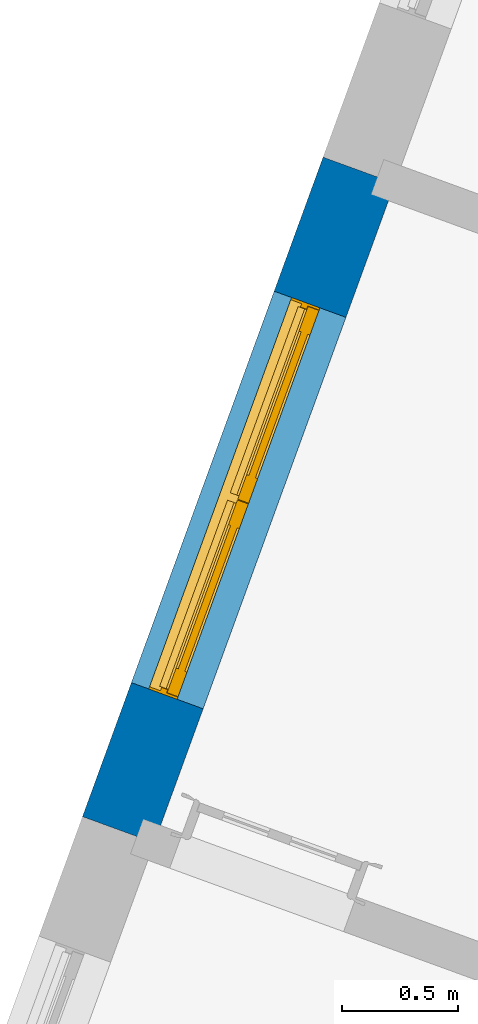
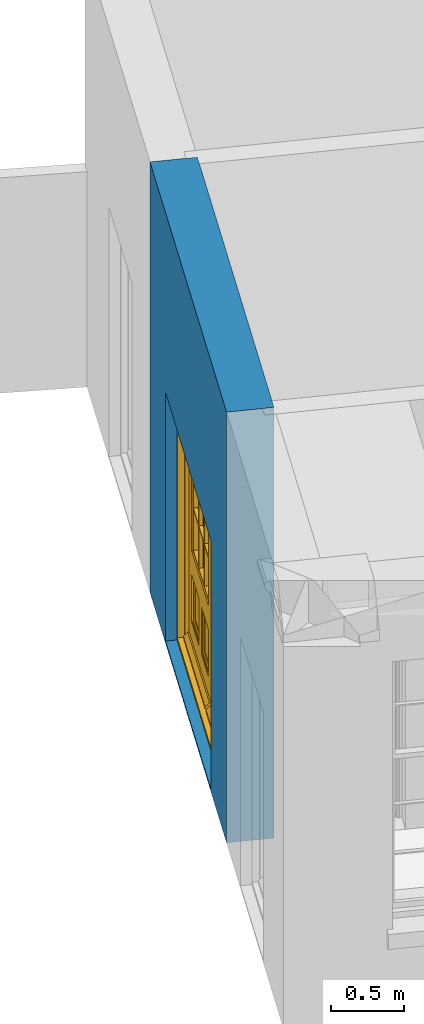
# One storey, part 3 of 6: 1 door, 1 wall, 1 opening.
"""IFC4 building model written with IfcOpenShell, lengths in metres."""

from ifc_helpers import new_model, si_unit, frame, origin, origin_with_axes, place, context, subcontext, project, spatial, polyline, outline, extrude, faceted_brep, source, transform, mapped, material, layer, layer_set, layer_usage, type_object, type_shapes, element, fill, save


model = new_model("IFC4")

# Units and contexts
model_context = context("Model", 3, world=origin_with_axes())
body_context = subcontext(model_context, "Body", "Model", "MODEL_VIEW")
ifc_project = project(units=[si_unit("PLANEANGLEUNIT", "RADIAN"), si_unit("MASSUNIT", "GRAM", prefix="KILO"), si_unit("FORCEUNIT", "NEWTON", prefix="KILO"), si_unit("LENGTHUNIT", "METRE"), si_unit("AREAUNIT", "SQUARE_METRE"), si_unit("VOLUMEUNIT", "CUBIC_METRE")], contexts=[model_context, model_context])

# Sites, building, storey
site_1_placement = place(None, origin_with_axes())
site_1 = spatial("IfcSite", under=ifc_project, at=site_1_placement, Name="Tamar")
site_2_placement = place(site_1_placement, origin_with_axes())
site_2 = spatial("IfcSite", under=site_1, at=site_2_placement, Name="Site plot-14", CompositionType="ELEMENT")
building_placement = place(None, origin_with_axes())
building = spatial("IfcBuilding", under=site_2, at=building_placement, Name="Building plot-14", CompositionType="ELEMENT")
storey_placement = place(None, frame((0.0, 0.0, 26.8), z_axis=(0.0, 0.0, 1.0), x_axis=(1.0, 0.0, 0.0)))
storey = spatial("IfcBuildingStorey", under=building, at=storey_placement, Name="plot-14 0", CompositionType="ELEMENT", Elevation=26.8)

# Wall, opening, door
ifc_material = material(Name="Masonry")
ifc_layer = layer(ifc_material, 0.33, ventilated=False)
ifc_layer_set = layer_set([ifc_layer], Name="exterior_0.08_0.25")
ifc_layer_usage = layer_usage(ifc_layer_set, "AXIS2", "POSITIVE", -0.25)
wall_type = type_object("IfcWallType", Name="exterior_0.08_0.25", PredefinedType="SOLIDWALL", material=ifc_layer_set)
wall_placement = place(storey_placement, frame((251.300868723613, 314.15011980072, 0.0), z_axis=(0.0, 0.0, 1.0), x_axis=(-0.342734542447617, -0.939432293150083, 0.0)))
wall = element("IfcWall", 1, at=wall_placement, inside=storey, type_object=wall_type, material=ifc_layer_usage, Name="exterior", context=body_context, shape_type="SweptSolid", body=[
    extrude(outline(polyline([(-5.23106411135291e-14, 0.0799999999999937), (9.04984845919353e-14, -0.249999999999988), (3.03282372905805, -0.25), (3.03282372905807, 0.0800000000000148), (-5.23106411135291e-14, 0.0799999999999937)])), origin_with_axes(), (0.0, 0.0, 1.0), 3.6),
])
opening_placement = place(wall_placement, frame((0.616411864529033, 0.0, 0.0199999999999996)))
opening = element("IfcOpeningElement", 2, at=opening_placement, cuts=wall, Name="My Opening", ObjectType="Opening", context=body_context, shape_type="SweptSolid", body=[
    extrude(outline(polyline([(0.0, -0.269999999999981), (1.80000000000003, -0.269999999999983), (1.80000000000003, 1.1), (-6.77236045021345e-15, 1.10000000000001), (0.0, -0.269999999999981)])), origin_with_axes(), (0.0, 0.0, 1.0), 2.08),
])
door_type = type_object("IfcDoorType", Name="door_panelled_double", OperationType="SINGLE_SWING_LEFT", PredefinedType="NOTDEFINED")
shared_shape = source(origin(), body_context, "Body", "Brep", [
    faceted_brep([(0.545, 0.195, 0.265), (0.745, 0.195, 0.265), (0.745, 0.2, 0.265), (0.545, 0.2, 0.265), (0.745, 0.2, 0.58), (0.545, 0.2, 0.58), (0.545, 0.195, 0.58), (0.515, 0.19, 0.235), (0.775, 0.19, 0.235), (0.745, 0.195, 0.58), (0.515, 0.19, 0.61), (0.515, 0.185, 0.235), (0.775, 0.185, 0.235), (0.775, 0.19, 0.61), (0.515, 0.185, 0.61), (0.785, 0.185, 0.225), (0.505, 0.185, 0.225), (0.775, 0.185, 0.61), (0.505, 0.185, 0.62), (0.785, 0.185, 0.62), (0.505, 0.18, 0.225), (0.785, 0.18, 0.225), (0.505, 0.18, 0.62), (0.785, 0.18, 0.62), (0.883, 0.18, 0.075), (0.898, 0.18, 0.075), (0.405, 0.18, 0.62), (0.405, 0.18, 0.225), (0.027, 0.18, 0.075), (0.785, 0.18, 0.82), (0.125, 0.18, 0.82), (0.405, 0.185, 0.62), (0.405, 0.185, 0.225), (0.898, 0.18, 2.068), (0.027, 0.17, 0.075), (0.883, 0.17, 0.075), (0.125, 0.18, 0.225), (0.012, 0.18, 0.075), (0.785, 0.19, 0.82), (0.125, 0.19, 0.82), (0.125, 0.18, 0.62), (0.125, 0.185, 0.62), (0.395, 0.185, 0.61), (0.395, 0.185, 0.235), (0.125, 0.185, 0.225), (0.785, 0.18, 1.895), (0.027, 0.14, 0.045), (0.883, 0.14, 0.045), (0.558333, 0.19, 0.83), (0.351667, 0.19, 0.83), (0.125, 0.18, 1.895), (0.125, 0.19, 1.895), (0.785, 0.19, 1.895), (0.012, 0.18, 2.068), (0.135, 0.185, 0.61), (0.395, 0.19, 0.61), (0.395, 0.19, 0.235), (0.135, 0.185, 0.235), (0.027, 0.14, 0.027), (0.883, 0.14, 0.027), (0.568333, 0.19, 0.83), (0.558333, 0.22, 0.83), (0.351667, 0.22, 0.83), (0.341667, 0.19, 0.83), (0.135, 0.19, 1.185), (0.135, 0.19, 1.53), (0.775, 0.19, 1.53), (0.775, 0.19, 1.185), (0.135, 0.19, 0.61), (0.365, 0.195, 0.58), (0.365, 0.195, 0.265), (0.135, 0.19, 0.235), (0.568333, 0.19, 1.175), (0.558333, 0.19, 1.175), (0.775, 0.19, 0.83), (0.558333, 0.22, 1.175), (0.785, 0.22, 0.82), (0.125, 0.22, 0.82), (0.351667, 0.22, 1.175), (0.351667, 0.19, 1.175), (0.341667, 0.19, 1.175), (0.135, 0.19, 0.83), (0.135, 0.19, 1.175), (0.135, 0.22, 1.185), (0.135, 0.22, 1.53), (0.135, 0.19, 1.54), (0.351667, 0.19, 1.885), (0.558333, 0.19, 1.885), (0.775, 0.22, 1.53), (0.775, 0.22, 1.185), (0.775, 0.19, 1.175), (0.775, 0.19, 1.54), (0.165, 0.195, 0.58), (0.365, 0.2, 0.58), (0.365, 0.2, 0.265), (0.165, 0.195, 0.265), (0.568333, 0.22, 0.83), (0.568333, 0.22, 1.175), (0.568333, 0.19, 1.185), (0.558333, 0.19, 1.185), (0.775, 0.22, 0.83), (0.785, 0.23, 0.82), (0.125, 0.23, 0.82), (0.341667, 0.22, 0.83), (0.341667, 0.22, 1.175), (0.351667, 0.19, 1.185), (0.341667, 0.19, 1.185), (0.135, 0.22, 0.83), (0.341667, 0.22, 1.185), (0.125, 0.22, 1.895), (0.341667, 0.22, 1.53), (0.341667, 0.19, 1.53), (0.135, 0.19, 1.885), (0.341667, 0.19, 1.54), (0.341667, 0.19, 1.885), (0.558333, 0.22, 1.885), (0.351667, 0.22, 1.885), (0.568333, 0.19, 1.885), (0.785, 0.22, 1.895), (0.568333, 0.22, 1.185), (0.568333, 0.19, 1.53), (0.568333, 0.22, 1.53), (0.568333, 0.19, 1.54), (0.775, 0.19, 1.885), (0.165, 0.2, 0.58), (0.165, 0.2, 0.265), (0.775, 0.22, 1.175), (0.558333, 0.19, 1.53), (0.351667, 0.22, 1.185), (0.558333, 0.22, 1.185), (0.505, 0.23, 0.62), (0.405, 0.23, 0.62), (0.125, 0.23, 1.895), (0.785, 0.23, 1.895), (0.351667, 0.19, 1.53), (0.135, 0.22, 1.175), (0.135, 0.22, 1.54), (0.341667, 0.22, 1.54), (0.135, 0.22, 1.885), (0.351667, 0.19, 1.54), (0.558333, 0.22, 1.54), (0.558333, 0.19, 1.54), (0.351667, 0.22, 1.54), (0.775, 0.22, 1.54), (0.568333, 0.22, 1.54), (0.775, 0.22, 1.885), (0.558333, 0.22, 1.53), (0.405, 0.23, 0.225), (0.505, 0.23, 0.225), (0.125, 0.23, 0.62), (0.785, 0.23, 0.62), (0.012, 0.23, 2.068), (0.898, 0.23, 2.068), (0.351667, 0.22, 1.53), (0.341667, 0.22, 1.885), (0.568333, 0.22, 1.885), (0.405, 0.225, 0.225), (0.405, 0.225, 0.62), (0.505, 0.225, 0.62), (0.505, 0.225, 0.225), (0.898, 0.23, 0.027), (0.012, 0.23, 0.027), (0.125, 0.225, 0.62), (0.785, 0.225, 0.62), (0.395, 0.225, 0.235), (0.395, 0.225, 0.61), (0.125, 0.23, 0.225), (0.125, 0.225, 0.225), (0.515, 0.225, 0.61), (0.515, 0.225, 0.235), (0.785, 0.23, 0.225), (0.785, 0.225, 0.225), (0.135, 0.225, 0.61), (0.775, 0.225, 0.61), (0.135, 0.225, 0.235), (0.395, 0.22, 0.235), (0.395, 0.22, 0.61), (0.515, 0.22, 0.61), (0.515, 0.22, 0.235), (0.775, 0.225, 0.235), (0.135, 0.22, 0.61), (0.775, 0.22, 0.61), (0.135, 0.22, 0.235), (0.365, 0.215, 0.265), (0.365, 0.215, 0.58), (0.545, 0.215, 0.58), (0.545, 0.215, 0.265), (0.775, 0.22, 0.235), (0.165, 0.215, 0.58), (0.745, 0.215, 0.58), (0.165, 0.215, 0.265), (0.365, 0.21, 0.58), (0.365, 0.21, 0.265), (0.545, 0.21, 0.58), (0.545, 0.21, 0.265), (0.745, 0.215, 0.265), (0.165, 0.21, 0.58), (0.745, 0.21, 0.58), (0.165, 0.21, 0.265), (0.745, 0.21, 0.265), (1.775, 0.178, 0.025), (0.025, 0.178, 0.025), (0.025, 0.15, 0.025), (1.775, 0.15, 0.025), (1.79, 0.23, 0.025), (0.01, 0.23, 0.025), (1.79, 0.178, 0.025), (1.8, 0.23, 0.0), (0.0, 0.23, 0.0), (0.01, 0.178, 0.025), (1.79, 0.178, 2.07), (1.79, 0.23, 2.07), (1.775, 0.178, 2.055), (1.8, 0.23, 2.08), (0.01, 0.23, 2.07), (0.0, 0.23, 2.08), (0.01, 0.178, 2.07), (0.025, 0.178, 2.055), (0.0, 0.1, 2.08), (1.8, 0.1, 2.08), (0.01, 0.1, 2.07), (1.79, 0.1, 2.07), (0.01, 0.15, 2.07), (1.79, 0.15, 2.07), (0.0, 0.1, 0.0), (1.8, 0.1, 0.0), (0.01, 0.1, 0.025), (1.79, 0.1, 0.025), (0.01, 0.15, 0.025), (0.025, 0.15, 2.055), (1.79, 0.15, 0.025), (1.775, 0.15, 2.055), (0.898, 0.18, 0.027), (0.012, 0.18, 0.027), (0.883, 0.18, 0.027), (0.027, 0.18, 0.027), (1.435, 0.195, 0.265), (1.635, 0.195, 0.265), (1.635, 0.2, 0.265), (1.435, 0.2, 0.265), (1.635, 0.2, 0.58), (1.435, 0.2, 0.58), (1.435, 0.195, 0.58), (1.405, 0.19, 0.235), (1.665, 0.19, 0.235), (1.635, 0.195, 0.58), (1.405, 0.19, 0.61), (1.405, 0.185, 0.235), (1.665, 0.185, 0.235), (1.665, 0.19, 0.61), (1.405, 0.185, 0.61), (1.675, 0.185, 0.225), (1.395, 0.185, 0.225), (1.665, 0.185, 0.61), (1.395, 0.185, 0.62), (1.675, 0.185, 0.62), (1.395, 0.18, 0.225), (1.675, 0.18, 0.225), (1.395, 0.18, 0.62), (1.675, 0.18, 0.62), (1.773, 0.18, 0.075), (1.788, 0.18, 0.075), (1.295, 0.18, 0.62), (1.295, 0.18, 0.225), (0.917, 0.18, 0.075), (1.675, 0.18, 0.82), (1.015, 0.18, 0.82), (1.295, 0.185, 0.62), (1.295, 0.185, 0.225), (1.788, 0.18, 2.068), (0.917, 0.17, 0.075), (1.773, 0.17, 0.075), (1.015, 0.18, 0.225), (0.902, 0.18, 0.075), (1.675, 0.19, 0.82), (1.015, 0.19, 0.82), (1.015, 0.18, 0.62), (1.015, 0.185, 0.62), (1.285, 0.185, 0.61), (1.285, 0.185, 0.235), (1.015, 0.185, 0.225), (1.675, 0.18, 1.895), (0.917, 0.14, 0.045), (1.773, 0.14, 0.045), (1.448333, 0.19, 0.83), (1.241667, 0.19, 0.83), (1.015, 0.18, 1.895), (1.015, 0.19, 1.895), (1.675, 0.19, 1.895), (0.902, 0.18, 2.068), (1.025, 0.185, 0.61), (1.285, 0.19, 0.61), (1.285, 0.19, 0.235), (1.025, 0.185, 0.235), (0.917, 0.14, 0.027), (1.773, 0.14, 0.027), (1.458333, 0.19, 0.83), (1.448333, 0.22, 0.83), (1.241667, 0.22, 0.83), (1.231667, 0.19, 0.83), (1.025, 0.19, 1.185), (1.025, 0.19, 1.53), (1.665, 0.19, 1.53), (1.665, 0.19, 1.185), (1.025, 0.19, 0.61), (1.255, 0.195, 0.58), (1.255, 0.195, 0.265), (1.025, 0.19, 0.235), (1.458333, 0.19, 1.175), (1.448333, 0.19, 1.175), (1.665, 0.19, 0.83), (1.448333, 0.22, 1.175), (1.675, 0.22, 0.82), (1.015, 0.22, 0.82), (1.241667, 0.22, 1.175), (1.241667, 0.19, 1.175), (1.231667, 0.19, 1.175), (1.025, 0.19, 0.83), (1.025, 0.19, 1.175), (1.025, 0.22, 1.185), (1.025, 0.22, 1.53), (1.025, 0.19, 1.54), (1.241667, 0.19, 1.885), (1.448333, 0.19, 1.885), (1.665, 0.22, 1.53), (1.665, 0.22, 1.185), (1.665, 0.19, 1.175), (1.665, 0.19, 1.54), (1.055, 0.195, 0.58), (1.255, 0.2, 0.58), (1.255, 0.2, 0.265), (1.055, 0.195, 0.265), (1.458333, 0.22, 0.83), (1.458333, 0.22, 1.175), (1.458333, 0.19, 1.185), (1.448333, 0.19, 1.185), (1.665, 0.22, 0.83), (1.675, 0.23, 0.82), (1.015, 0.23, 0.82), (1.231667, 0.22, 0.83), (1.231667, 0.22, 1.175), (1.241667, 0.19, 1.185), (1.231667, 0.19, 1.185), (1.025, 0.22, 0.83), (1.231667, 0.22, 1.185), (1.015, 0.22, 1.895), (1.231667, 0.22, 1.53), (1.231667, 0.19, 1.53), (1.025, 0.19, 1.885), (1.231667, 0.19, 1.54), (1.231667, 0.19, 1.885), (1.448333, 0.22, 1.885), (1.241667, 0.22, 1.885), (1.458333, 0.19, 1.885), (1.675, 0.22, 1.895), (1.458333, 0.22, 1.185), (1.458333, 0.19, 1.53), (1.458333, 0.22, 1.53), (1.458333, 0.19, 1.54), (1.665, 0.19, 1.885), (1.055, 0.2, 0.58), (1.055, 0.2, 0.265), (1.665, 0.22, 1.175), (1.448333, 0.19, 1.53), (1.241667, 0.22, 1.185), (1.448333, 0.22, 1.185), (1.395, 0.23, 0.62), (1.295, 0.23, 0.62), (1.015, 0.23, 1.895), (1.675, 0.23, 1.895), (1.241667, 0.19, 1.53), (1.025, 0.22, 1.175), (1.025, 0.22, 1.54), (1.231667, 0.22, 1.54), (1.025, 0.22, 1.885), (1.241667, 0.19, 1.54), (1.448333, 0.22, 1.54), (1.448333, 0.19, 1.54), (1.241667, 0.22, 1.54), (1.665, 0.22, 1.54), (1.458333, 0.22, 1.54), (1.665, 0.22, 1.885), (1.448333, 0.22, 1.53), (1.295, 0.23, 0.225), (1.395, 0.23, 0.225), (1.015, 0.23, 0.62), (1.675, 0.23, 0.62), (0.902, 0.23, 2.068), (1.788, 0.23, 2.068), (1.241667, 0.22, 1.53), (1.231667, 0.22, 1.885), (1.458333, 0.22, 1.885), (1.295, 0.225, 0.225), (1.295, 0.225, 0.62), (1.395, 0.225, 0.62), (1.395, 0.225, 0.225), (1.788, 0.23, 0.027), (0.902, 0.23, 0.027), (1.015, 0.225, 0.62), (1.675, 0.225, 0.62), (1.285, 0.225, 0.235), (1.285, 0.225, 0.61), (1.015, 0.23, 0.225), (1.015, 0.225, 0.225), (1.405, 0.225, 0.61), (1.405, 0.225, 0.235), (1.675, 0.23, 0.225), (1.675, 0.225, 0.225), (1.025, 0.225, 0.61), (1.665, 0.225, 0.61), (1.025, 0.225, 0.235), (1.285, 0.22, 0.235), (1.285, 0.22, 0.61), (1.405, 0.22, 0.61), (1.405, 0.22, 0.235), (1.665, 0.225, 0.235), (1.025, 0.22, 0.61), (1.665, 0.22, 0.61), (1.025, 0.22, 0.235), (1.255, 0.215, 0.265), (1.255, 0.215, 0.58), (1.435, 0.215, 0.58), (1.435, 0.215, 0.265), (1.665, 0.22, 0.235), (1.055, 0.215, 0.58), (1.635, 0.215, 0.58), (1.055, 0.215, 0.265), (1.255, 0.21, 0.58), (1.255, 0.21, 0.265), (1.435, 0.21, 0.58), (1.435, 0.21, 0.265), (1.635, 0.215, 0.265), (1.055, 0.21, 0.58), (1.635, 0.21, 0.58), (1.055, 0.21, 0.265), (1.635, 0.21, 0.265), (1.788, 0.18, 0.027), (0.902, 0.18, 0.027), (1.773, 0.18, 0.027), (0.917, 0.18, 0.027)], [[[0, 1, 2, 3]], [[2, 4, 5, 3]], [[0, 3, 5, 6]], [[1, 0, 7, 8]], [[9, 4, 2, 1]], [[9, 6, 5, 4]], [[0, 6, 10, 7]], [[8, 7, 11, 12]], [[8, 13, 9, 1]], [[13, 10, 6, 9]], [[7, 10, 14, 11]], [[15, 12, 11, 16]], [[12, 17, 13, 8]], [[17, 14, 10, 13]], [[18, 16, 11, 14]], [[15, 19, 17, 12]], [[15, 16, 20, 21]], [[14, 17, 19, 18]], [[16, 18, 22, 20]], [[21, 23, 19, 15]], [[24, 25, 21, 20]], [[23, 22, 18, 19]], [[20, 22, 26, 27]], [[23, 21, 25]], [[28, 24, 20, 27]], [[22, 23, 29]], [[29, 30, 26, 22]], [[27, 26, 31, 32]], [[23, 25, 33, 29]], [[34, 35, 24, 28]], [[28, 27, 36, 37]], [[38, 39, 30, 29]], [[26, 30, 40]], [[26, 40, 41, 31]], [[42, 43, 32, 31]], [[32, 44, 36, 27]], [[33, 45, 29]], [[46, 47, 35, 34]], [[36, 40, 37]], [[39, 38, 48, 49]], [[50, 30, 39, 51]], [[29, 45, 52, 38]], [[53, 37, 40, 30]], [[44, 41, 40, 36]], [[31, 41, 54, 42]], [[43, 42, 55, 56]], [[57, 44, 32, 43]], [[50, 45, 33, 53]], [[47, 46, 58, 59]], [[60, 48, 38]], [[49, 48, 61, 62]], [[49, 63, 39]], [[50, 53, 30]], [[51, 39, 64, 65]], [[45, 50, 51, 52]], [[66, 67, 38, 52]], [[57, 54, 41, 44]], [[42, 54, 68, 55]], [[56, 55, 69, 70]], [[56, 71, 57, 43]], [[60, 72, 73, 48]], [[60, 38, 74]], [[48, 73, 75, 61]], [[76, 77, 62, 61]], [[62, 78, 79, 49]], [[49, 79, 80, 63]], [[63, 81, 39]], [[82, 64, 39]], [[65, 64, 83, 84]], [[85, 51, 65]], [[52, 51, 86, 87]], [[88, 89, 67, 66]], [[90, 38, 67]], [[91, 66, 52]], [[71, 68, 54, 57]], [[55, 68, 92, 69]], [[69, 93, 94, 70]], [[70, 95, 71, 56]], [[96, 97, 72, 60]], [[73, 72, 98, 99]], [[74, 38, 90]], [[100, 96, 60, 74]], [[75, 73, 79, 78]], [[61, 75, 97, 96]], [[101, 102, 77, 76]], [[77, 103, 62]], [[96, 76, 61]], [[103, 104, 78, 62]], [[80, 79, 105, 106]], [[63, 80, 104, 103]], [[81, 63, 103, 107]], [[81, 82, 39]], [[106, 64, 82, 80]], [[106, 108, 83, 64]], [[84, 83, 77, 109]], [[110, 111, 65, 84]], [[112, 51, 85]], [[113, 85, 65, 111]], [[114, 86, 51]], [[115, 87, 86, 116]], [[117, 52, 87]], [[118, 76, 89, 88]], [[119, 98, 67, 89]], [[120, 121, 88, 66]], [[67, 98, 72, 90]], [[91, 122, 120, 66]], [[91, 52, 123]], [[95, 92, 68, 71]], [[69, 92, 124, 93]], [[94, 93, 124, 125]], [[94, 125, 95, 70]], [[72, 97, 126, 90]], [[127, 99, 98, 120]], [[99, 105, 79, 73]], [[74, 90, 126, 100]], [[96, 100, 76]], [[128, 129, 75, 78]], [[97, 75, 129, 119]], [[130, 131, 102, 101]], [[109, 77, 102, 132]], [[133, 101, 76, 118]], [[77, 107, 103]], [[78, 104, 108, 128]], [[111, 106, 105, 134]], [[104, 80, 82, 135]], [[107, 135, 82, 81]], [[110, 108, 106, 111]], [[104, 135, 83, 108]], [[83, 135, 77]], [[136, 84, 109]], [[110, 84, 136, 137]], [[114, 51, 112]], [[85, 136, 138, 112]], [[113, 137, 136, 85]], [[111, 134, 139, 113]], [[86, 114, 113, 139]], [[140, 141, 87, 115]], [[139, 142, 116, 86]], [[109, 118, 115, 116]], [[117, 123, 52]], [[117, 87, 141, 122]], [[126, 89, 76]], [[143, 118, 88]], [[120, 98, 119, 121]], [[119, 89, 126, 97]], [[144, 143, 88, 121]], [[144, 122, 91, 143]], [[127, 120, 122, 141]], [[143, 91, 123, 145]], [[124, 92, 95, 125]], [[146, 129, 99, 127]], [[99, 129, 128, 105]], [[100, 126, 76]], [[121, 119, 129, 146]], [[147, 131, 130, 148]], [[131, 149, 102]], [[130, 101, 150]], [[102, 151, 132]], [[118, 109, 132, 133]], [[101, 133, 152]], [[107, 77, 135]], [[153, 128, 108, 110]], [[134, 105, 128, 153]], [[109, 138, 136]], [[153, 110, 137, 142]], [[154, 114, 112, 138]], [[137, 113, 114, 154]], [[141, 139, 134, 127]], [[141, 140, 142, 139]], [[144, 140, 115, 155]], [[142, 137, 154, 116]], [[155, 115, 118]], [[116, 154, 109]], [[117, 155, 145, 123]], [[122, 144, 155, 117]], [[143, 145, 118]], [[121, 146, 140, 144]], [[146, 127, 134, 153]], [[156, 157, 131, 147]], [[148, 130, 158, 159]], [[148, 160, 161, 147]], [[157, 162, 149, 131]], [[161, 151, 102, 149]], [[101, 152, 160, 150]], [[163, 158, 130, 150]], [[151, 152, 133, 132]], [[154, 138, 109]], [[142, 140, 146, 153]], [[145, 155, 118]], [[157, 156, 164, 165]], [[147, 166, 167, 156]], [[168, 169, 159, 158]], [[170, 148, 159, 171]], [[148, 170, 160]], [[166, 147, 161]], [[172, 162, 157, 165]], [[166, 149, 162, 167]], [[166, 161, 149]], [[150, 160, 170]], [[163, 173, 168, 158]], [[171, 163, 150, 170]], [[174, 164, 156, 167]], [[175, 176, 165, 164]], [[169, 168, 177, 178]], [[171, 159, 169, 179]], [[167, 162, 172, 174]], [[176, 180, 172, 165]], [[179, 173, 163, 171]], [[181, 177, 168, 173]], [[164, 174, 182, 175]], [[183, 184, 176, 175]], [[178, 177, 185, 186]], [[179, 169, 178, 187]], [[174, 172, 180, 182]], [[184, 188, 180, 176]], [[187, 181, 173, 179]], [[189, 185, 177, 181]], [[175, 182, 190, 183]], [[191, 184, 183, 192]], [[185, 193, 194, 186]], [[187, 178, 186, 195]], [[182, 180, 188, 190]], [[191, 196, 188, 184]], [[195, 189, 181, 187]], [[197, 193, 185, 189]], [[183, 190, 198, 192]], [[198, 196, 191, 192]], [[194, 193, 197, 199]], [[195, 186, 194, 199]], [[188, 196, 198, 190]], [[197, 189, 195, 199]], [[200, 201, 202, 203]], [[201, 200, 204, 205]], [[206, 204, 200]], [[204, 207, 208, 205]], [[209, 201, 205]], [[210, 211, 204, 206]], [[206, 200, 212, 210]], [[211, 213, 207, 204]], [[214, 205, 208, 215]], [[216, 217, 201, 209]], [[205, 214, 216, 209]], [[216, 214, 211, 210]], [[210, 212, 217, 216]], [[214, 215, 213, 211]], [[218, 219, 213, 215]], [[219, 218, 220, 221]], [[221, 220, 222, 223]], [[215, 208, 224, 218]], [[225, 224, 208, 207]], [[224, 226, 220, 218]], [[224, 225, 227, 226]], [[219, 225, 207, 213]], [[228, 222, 220, 226]], [[219, 221, 227, 225]], [[226, 227, 203, 202]], [[202, 229, 222, 228]], [[228, 226, 202]], [[227, 221, 223, 230]], [[230, 203, 227]], [[217, 229, 202, 201]], [[231, 223, 222, 229]], [[230, 223, 231, 203]], [[231, 229, 217, 212]], [[212, 200, 203, 231]], [[33, 152, 151, 53]], [[25, 160, 152, 33]], [[161, 37, 53, 151]], [[232, 160, 25]], [[161, 233, 37]], [[160, 232, 234]], [[24, 234, 232, 25]], [[233, 161, 235]], [[37, 233, 235, 28]], [[161, 160, 234, 235]], [[35, 47, 234, 24]], [[28, 235, 46, 34]], [[58, 235, 234, 59]], [[59, 234, 47]], [[58, 46, 235]], [[236, 237, 238, 239]], [[238, 240, 241, 239]], [[236, 239, 241, 242]], [[237, 236, 243, 244]], [[245, 240, 238, 237]], [[245, 242, 241, 240]], [[236, 242, 246, 243]], [[244, 243, 247, 248]], [[244, 249, 245, 237]], [[249, 246, 242, 245]], [[243, 246, 250, 247]], [[251, 248, 247, 252]], [[248, 253, 249, 244]], [[253, 250, 246, 249]], [[254, 252, 247, 250]], [[251, 255, 253, 248]], [[251, 252, 256, 257]], [[250, 253, 255, 254]], [[252, 254, 258, 256]], [[257, 259, 255, 251]], [[260, 261, 257, 256]], [[259, 258, 254, 255]], [[256, 258, 262, 263]], [[259, 257, 261]], [[264, 260, 256, 263]], [[258, 259, 265]], [[265, 266, 262, 258]], [[263, 262, 267, 268]], [[259, 261, 269, 265]], [[270, 271, 260, 264]], [[264, 263, 272, 273]], [[274, 275, 266, 265]], [[262, 266, 276]], [[262, 276, 277, 267]], [[278, 279, 268, 267]], [[268, 280, 272, 263]], [[269, 281, 265]], [[282, 283, 271, 270]], [[272, 276, 273]], [[275, 274, 284, 285]], [[286, 266, 275, 287]], [[265, 281, 288, 274]], [[289, 273, 276, 266]], [[280, 277, 276, 272]], [[267, 277, 290, 278]], [[279, 278, 291, 292]], [[293, 280, 268, 279]], [[286, 281, 269, 289]], [[283, 282, 294, 295]], [[296, 284, 274]], [[285, 284, 297, 298]], [[285, 299, 275]], [[286, 289, 266]], [[287, 275, 300, 301]], [[281, 286, 287, 288]], [[302, 303, 274, 288]], [[293, 290, 277, 280]], [[278, 290, 304, 291]], [[292, 291, 305, 306]], [[292, 307, 293, 279]], [[296, 308, 309, 284]], [[296, 274, 310]], [[284, 309, 311, 297]], [[312, 313, 298, 297]], [[298, 314, 315, 285]], [[285, 315, 316, 299]], [[299, 317, 275]], [[318, 300, 275]], [[301, 300, 319, 320]], [[321, 287, 301]], [[288, 287, 322, 323]], [[324, 325, 303, 302]], [[326, 274, 303]], [[327, 302, 288]], [[307, 304, 290, 293]], [[291, 304, 328, 305]], [[305, 329, 330, 306]], [[306, 331, 307, 292]], [[332, 333, 308, 296]], [[309, 308, 334, 335]], [[310, 274, 326]], [[336, 332, 296, 310]], [[311, 309, 315, 314]], [[297, 311, 333, 332]], [[337, 338, 313, 312]], [[313, 339, 298]], [[332, 312, 297]], [[339, 340, 314, 298]], [[316, 315, 341, 342]], [[299, 316, 340, 339]], [[317, 299, 339, 343]], [[317, 318, 275]], [[342, 300, 318, 316]], [[342, 344, 319, 300]], [[320, 319, 313, 345]], [[346, 347, 301, 320]], [[348, 287, 321]], [[349, 321, 301, 347]], [[350, 322, 287]], [[351, 323, 322, 352]], [[353, 288, 323]], [[354, 312, 325, 324]], [[355, 334, 303, 325]], [[356, 357, 324, 302]], [[303, 334, 308, 326]], [[327, 358, 356, 302]], [[327, 288, 359]], [[331, 328, 304, 307]], [[305, 328, 360, 329]], [[330, 329, 360, 361]], [[330, 361, 331, 306]], [[308, 333, 362, 326]], [[363, 335, 334, 356]], [[335, 341, 315, 309]], [[310, 326, 362, 336]], [[332, 336, 312]], [[364, 365, 311, 314]], [[333, 311, 365, 355]], [[366, 367, 338, 337]], [[345, 313, 338, 368]], [[369, 337, 312, 354]], [[313, 343, 339]], [[314, 340, 344, 364]], [[347, 342, 341, 370]], [[340, 316, 318, 371]], [[343, 371, 318, 317]], [[346, 344, 342, 347]], [[340, 371, 319, 344]], [[319, 371, 313]], [[372, 320, 345]], [[346, 320, 372, 373]], [[350, 287, 348]], [[321, 372, 374, 348]], [[349, 373, 372, 321]], [[347, 370, 375, 349]], [[322, 350, 349, 375]], [[376, 377, 323, 351]], [[375, 378, 352, 322]], [[345, 354, 351, 352]], [[353, 359, 288]], [[353, 323, 377, 358]], [[362, 325, 312]], [[379, 354, 324]], [[356, 334, 355, 357]], [[355, 325, 362, 333]], [[380, 379, 324, 357]], [[380, 358, 327, 379]], [[363, 356, 358, 377]], [[379, 327, 359, 381]], [[360, 328, 331, 361]], [[382, 365, 335, 363]], [[335, 365, 364, 341]], [[336, 362, 312]], [[357, 355, 365, 382]], [[383, 367, 366, 384]], [[367, 385, 338]], [[366, 337, 386]], [[338, 387, 368]], [[354, 345, 368, 369]], [[337, 369, 388]], [[343, 313, 371]], [[389, 364, 344, 346]], [[370, 341, 364, 389]], [[345, 374, 372]], [[389, 346, 373, 378]], [[390, 350, 348, 374]], [[373, 349, 350, 390]], [[377, 375, 370, 363]], [[377, 376, 378, 375]], [[380, 376, 351, 391]], [[378, 373, 390, 352]], [[391, 351, 354]], [[352, 390, 345]], [[353, 391, 381, 359]], [[358, 380, 391, 353]], [[379, 381, 354]], [[357, 382, 376, 380]], [[382, 363, 370, 389]], [[392, 393, 367, 383]], [[384, 366, 394, 395]], [[384, 396, 397, 383]], [[393, 398, 385, 367]], [[397, 387, 338, 385]], [[337, 388, 396, 386]], [[399, 394, 366, 386]], [[387, 388, 369, 368]], [[390, 374, 345]], [[378, 376, 382, 389]], [[381, 391, 354]], [[393, 392, 400, 401]], [[383, 402, 403, 392]], [[404, 405, 395, 394]], [[406, 384, 395, 407]], [[384, 406, 396]], [[402, 383, 397]], [[408, 398, 393, 401]], [[402, 385, 398, 403]], [[402, 397, 385]], [[386, 396, 406]], [[399, 409, 404, 394]], [[407, 399, 386, 406]], [[410, 400, 392, 403]], [[411, 412, 401, 400]], [[405, 404, 413, 414]], [[407, 395, 405, 415]], [[403, 398, 408, 410]], [[412, 416, 408, 401]], [[415, 409, 399, 407]], [[417, 413, 404, 409]], [[400, 410, 418, 411]], [[419, 420, 412, 411]], [[414, 413, 421, 422]], [[415, 405, 414, 423]], [[410, 408, 416, 418]], [[420, 424, 416, 412]], [[423, 417, 409, 415]], [[425, 421, 413, 417]], [[411, 418, 426, 419]], [[427, 420, 419, 428]], [[421, 429, 430, 422]], [[423, 414, 422, 431]], [[418, 416, 424, 426]], [[427, 432, 424, 420]], [[431, 425, 417, 423]], [[433, 429, 421, 425]], [[419, 426, 434, 428]], [[434, 432, 427, 428]], [[430, 429, 433, 435]], [[431, 422, 430, 435]], [[424, 432, 434, 426]], [[433, 425, 431, 435]], [[269, 388, 387, 289]], [[261, 396, 388, 269]], [[397, 273, 289, 387]], [[436, 396, 261]], [[397, 437, 273]], [[396, 436, 438]], [[260, 438, 436, 261]], [[437, 397, 439]], [[273, 437, 439, 264]], [[397, 396, 438, 439]], [[271, 283, 438, 260]], [[264, 439, 282, 270]], [[294, 439, 438, 295]], [[295, 438, 283]], [[294, 282, 439]]]),
])
type_shapes(door_type, [shared_shape])
door_placement = place(storey_placement, frame((250.835956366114, 313.663580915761, 0.0199999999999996), z_axis=(0.0, 0.0, 1.0), x_axis=(-0.616922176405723, -1.69097812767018, 0.0)))
door = element("IfcDoor", 3, at=door_placement, inside=storey, type_object=door_type, Name="living outside door", OverallHeight=2.08, OverallWidth=1.8, context=body_context, shape_type="MappedRepresentation", body=[
    mapped(shared_shape, transform((0.0, 0.0, 0.0), scale=1.0)),
])
fill(opening, door)

save(model, "model.ifc")
